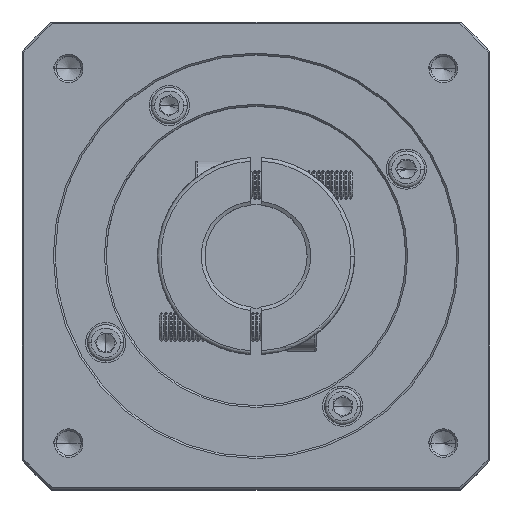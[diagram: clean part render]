
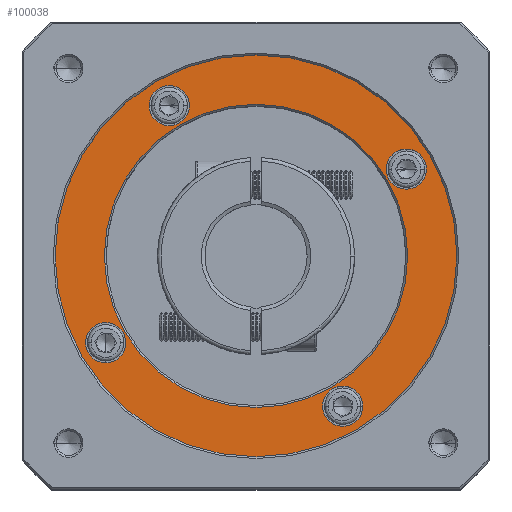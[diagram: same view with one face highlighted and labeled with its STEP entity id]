
A CAD part, top view. The second image highlights one B-rep face of the part: STEP entity #100038.
In plain terms, the highlighted planar face has unit normal (0, 0, 1).
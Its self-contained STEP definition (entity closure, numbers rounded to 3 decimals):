
#366 = DIRECTION ( 'NONE',  ( 0., 0., -1. ) ) ;
#539 = EDGE_CURVE ( 'NONE', #54535, #21786, #50112, .T. ) ;
#2878 = AXIS2_PLACEMENT_3D ( 'NONE', #65151, #73686, #46160 ) ;
#4041 = DIRECTION ( 'NONE',  ( 1., 0., 0. ) ) ;
#5095 = EDGE_CURVE ( 'NONE', #12965, #109831, #52996, .T. ) ;
#5480 = CARTESIAN_POINT ( 'NONE',  ( 36.593, 157.773, -4.938 ) ) ;
#7565 = ORIENTED_EDGE ( 'NONE', *, *, #539, .T. ) ;
#8488 = DIRECTION ( 'NONE',  ( 0., 0., 1. ) ) ;
#9968 = CARTESIAN_POINT ( 'NONE',  ( 65.843, 116.637, -4.938 ) ) ;
#10409 = DIRECTION ( 'NONE',  ( 0., 0., -1. ) ) ;
#10985 = ORIENTED_EDGE ( 'NONE', *, *, #110144, .T. ) ;
#11285 = FACE_BOUND ( 'NONE', #68452, .T. ) ;
#11686 = CIRCLE ( 'NONE', #2878, 5.5 ) ;
#12816 = CIRCLE ( 'NONE', #23094, 5.5 ) ;
#12945 = EDGE_CURVE ( 'NONE', #50596, #76407, #90090, .T. ) ;
#12965 = VERTEX_POINT ( 'NONE', #80003 ) ;
#14333 = FACE_BOUND ( 'NONE', #99411, .T. ) ;
#17030 = DIRECTION ( 'NONE',  ( 0., 0., 1. ) ) ;
#18470 = DIRECTION ( 'NONE',  ( 1., 0., 0. ) ) ;
#18789 = AXIS2_PLACEMENT_3D ( 'NONE', #24580, #85846, #112248 ) ;
#19078 = DIRECTION ( 'NONE',  ( 0., 0., -1. ) ) ;
#19089 = CIRCLE ( 'NONE', #77929, 55. ) ;
#19235 = FACE_BOUND ( 'NONE', #98639, .T. ) ;
#19405 = AXIS2_PLACEMENT_3D ( 'NONE', #63215, #10409, #108844 ) ;
#20996 = EDGE_CURVE ( 'NONE', #109831, #12965, #12816, .T. ) ;
#21786 = VERTEX_POINT ( 'NONE', #28220 ) ;
#22597 = EDGE_CURVE ( 'NONE', #33386, #82892, #113548, .T. ) ;
#23094 = AXIS2_PLACEMENT_3D ( 'NONE', #26135, #43998, #70374 ) ;
#24580 = CARTESIAN_POINT ( 'NONE',  ( 42.093, 157.773, -4.938 ) ) ;
#25920 = DIRECTION ( 'NONE',  ( 1., 0., 0. ) ) ;
#26119 = EDGE_CURVE ( 'NONE', #82892, #33386, #11686, .T. ) ;
#26135 = CARTESIAN_POINT ( 'NONE',  ( 89.593, 75.501, -4.938 ) ) ;
#26262 = CARTESIAN_POINT ( 'NONE',  ( 24.707, 92.887, -4.938 ) ) ;
#26543 = CARTESIAN_POINT ( 'NONE',  ( 107.343, 116.637, -4.938 ) ) ;
#26803 = DIRECTION ( 'NONE',  ( 1., 0., 0. ) ) ;
#26809 = CARTESIAN_POINT ( 'NONE',  ( 95.093, 75.501, -4.938 ) ) ;
#27978 = DIRECTION ( 'NONE',  ( 1., 0., 0. ) ) ;
#28220 = CARTESIAN_POINT ( 'NONE',  ( 10.843, 116.637, -4.938 ) ) ;
#31843 = EDGE_CURVE ( 'NONE', #21786, #54535, #19089, .T. ) ;
#33360 = CIRCLE ( 'NONE', #47466, 41.5 ) ;
#33386 = VERTEX_POINT ( 'NONE', #5480 ) ;
#35399 = AXIS2_PLACEMENT_3D ( 'NONE', #45244, #90203, #88668 ) ;
#36784 = AXIS2_PLACEMENT_3D ( 'NONE', #9968, #8488, #25920 ) ;
#37896 = CIRCLE ( 'NONE', #114466, 5.5 ) ;
#39047 = DIRECTION ( 'NONE',  ( 1., 0., 0. ) ) ;
#39897 = CARTESIAN_POINT ( 'NONE',  ( 112.479, 140.387, -4.938 ) ) ;
#39998 = DIRECTION ( 'NONE',  ( 0., 0., -1. ) ) ;
#42653 = VERTEX_POINT ( 'NONE', #26543 ) ;
#43241 = ORIENTED_EDGE ( 'NONE', *, *, #5095, .T. ) ;
#43399 = CARTESIAN_POINT ( 'NONE',  ( 65.843, 116.637, -4.938 ) ) ;
#43530 = ORIENTED_EDGE ( 'NONE', *, *, #26119, .T. ) ;
#43998 = DIRECTION ( 'NONE',  ( 0., 0., -1. ) ) ;
#45225 = EDGE_LOOP ( 'NONE', ( #84117, #103256 ) ) ;
#45244 = CARTESIAN_POINT ( 'NONE',  ( 65.843, 116.637, -4.938 ) ) ;
#46160 = DIRECTION ( 'NONE',  ( 1., 0., 0. ) ) ;
#46525 = CIRCLE ( 'NONE', #110632, 5.5 ) ;
#46683 = DIRECTION ( 'NONE',  ( 0., 0., 1. ) ) ;
#47466 = AXIS2_PLACEMENT_3D ( 'NONE', #100614, #48747, #39047 ) ;
#48747 = DIRECTION ( 'NONE',  ( 0., 0., -1. ) ) ;
#50112 = CIRCLE ( 'NONE', #77687, 55. ) ;
#50596 = VERTEX_POINT ( 'NONE', #39897 ) ;
#51858 = VERTEX_POINT ( 'NONE', #105425 ) ;
#52996 = CIRCLE ( 'NONE', #88530, 5.5 ) ;
#54535 = VERTEX_POINT ( 'NONE', #95896 ) ;
#55614 = ORIENTED_EDGE ( 'NONE', *, *, #112969, .T. ) ;
#55997 = CARTESIAN_POINT ( 'NONE',  ( 65.843, 116.637, -4.938 ) ) ;
#56187 = EDGE_LOOP ( 'NONE', ( #7565, #69309 ) ) ;
#57859 = DIRECTION ( 'NONE',  ( 1., 0., 0. ) ) ;
#58510 = CIRCLE ( 'NONE', #35399, 41.5 ) ;
#60314 = EDGE_CURVE ( 'NONE', #76407, #50596, #37896, .T. ) ;
#61635 = FACE_BOUND ( 'NONE', #45225, .T. ) ;
#63215 = CARTESIAN_POINT ( 'NONE',  ( 24.707, 92.887, -4.938 ) ) ;
#64856 = CARTESIAN_POINT ( 'NONE',  ( 106.979, 140.387, -4.938 ) ) ;
#65151 = CARTESIAN_POINT ( 'NONE',  ( 42.093, 157.773, -4.938 ) ) ;
#65791 = AXIS2_PLACEMENT_3D ( 'NONE', #64856, #19078, #27978 ) ;
#66492 = FACE_OUTER_BOUND ( 'NONE', #56187, .T. ) ;
#68452 = EDGE_LOOP ( 'NONE', ( #55614, #103613 ) ) ;
#69309 = ORIENTED_EDGE ( 'NONE', *, *, #31843, .T. ) ;
#70374 = DIRECTION ( 'NONE',  ( 1., 0., 0. ) ) ;
#73686 = DIRECTION ( 'NONE',  ( 0., 0., -1. ) ) ;
#73747 = EDGE_CURVE ( 'NONE', #42653, #51858, #33360, .T. ) ;
#74233 = ORIENTED_EDGE ( 'NONE', *, *, #20996, .T. ) ;
#76407 = VERTEX_POINT ( 'NONE', #112391 ) ;
#76650 = CIRCLE ( 'NONE', #19405, 5.5 ) ;
#77687 = AXIS2_PLACEMENT_3D ( 'NONE', #55997, #46683, #4041 ) ;
#77929 = AXIS2_PLACEMENT_3D ( 'NONE', #43399, #17030, #80200 ) ;
#78813 = ORIENTED_EDGE ( 'NONE', *, *, #73747, .T. ) ;
#79937 = CARTESIAN_POINT ( 'NONE',  ( 106.979, 140.387, -4.938 ) ) ;
#80003 = CARTESIAN_POINT ( 'NONE',  ( 84.093, 75.501, -4.938 ) ) ;
#80200 = DIRECTION ( 'NONE',  ( 1., 0., 0. ) ) ;
#82892 = VERTEX_POINT ( 'NONE', #85348 ) ;
#84117 = ORIENTED_EDGE ( 'NONE', *, *, #12945, .T. ) ;
#85348 = CARTESIAN_POINT ( 'NONE',  ( 47.593, 157.773, -4.938 ) ) ;
#85846 = DIRECTION ( 'NONE',  ( 0., 0., -1. ) ) ;
#85917 = CARTESIAN_POINT ( 'NONE',  ( 19.207, 92.887, -4.938 ) ) ;
#88530 = AXIS2_PLACEMENT_3D ( 'NONE', #93093, #39998, #57859 ) ;
#88668 = DIRECTION ( 'NONE',  ( 1., 0., 0. ) ) ;
#90090 = CIRCLE ( 'NONE', #65791, 5.5 ) ;
#90203 = DIRECTION ( 'NONE',  ( 0., 0., -1. ) ) ;
#90522 = FACE_BOUND ( 'NONE', #100031, .T. ) ;
#91370 = EDGE_CURVE ( 'NONE', #100476, #96506, #46525, .T. ) ;
#93093 = CARTESIAN_POINT ( 'NONE',  ( 89.593, 75.501, -4.938 ) ) ;
#95896 = CARTESIAN_POINT ( 'NONE',  ( 120.843, 116.637, -4.938 ) ) ;
#96506 = VERTEX_POINT ( 'NONE', #108371 ) ;
#98459 = DIRECTION ( 'NONE',  ( 0., 0., -1. ) ) ;
#98639 = EDGE_LOOP ( 'NONE', ( #78813, #10985 ) ) ;
#99411 = EDGE_LOOP ( 'NONE', ( #74233, #43241 ) ) ;
#100031 = EDGE_LOOP ( 'NONE', ( #43530, #101201 ) ) ;
#100038 = ADVANCED_FACE ( 'NONE', ( #66492, #19235, #61635, #14333, #90522, #11285 ), #106111, .T. ) ;
#100476 = VERTEX_POINT ( 'NONE', #85917 ) ;
#100614 = CARTESIAN_POINT ( 'NONE',  ( 65.843, 116.637, -4.938 ) ) ;
#101201 = ORIENTED_EDGE ( 'NONE', *, *, #22597, .T. ) ;
#103256 = ORIENTED_EDGE ( 'NONE', *, *, #60314, .T. ) ;
#103613 = ORIENTED_EDGE ( 'NONE', *, *, #91370, .T. ) ;
#105425 = CARTESIAN_POINT ( 'NONE',  ( 24.343, 116.637, -4.938 ) ) ;
#106111 = PLANE ( 'NONE',  #36784 ) ;
#108371 = CARTESIAN_POINT ( 'NONE',  ( 30.207, 92.887, -4.938 ) ) ;
#108844 = DIRECTION ( 'NONE',  ( 1., 0., 0. ) ) ;
#109831 = VERTEX_POINT ( 'NONE', #26809 ) ;
#110144 = EDGE_CURVE ( 'NONE', #51858, #42653, #58510, .T. ) ;
#110632 = AXIS2_PLACEMENT_3D ( 'NONE', #26262, #366, #18470 ) ;
#112248 = DIRECTION ( 'NONE',  ( 1., 0., 0. ) ) ;
#112391 = CARTESIAN_POINT ( 'NONE',  ( 101.479, 140.387, -4.938 ) ) ;
#112969 = EDGE_CURVE ( 'NONE', #96506, #100476, #76650, .T. ) ;
#113548 = CIRCLE ( 'NONE', #18789, 5.5 ) ;
#114466 = AXIS2_PLACEMENT_3D ( 'NONE', #79937, #98459, #26803 ) ;
